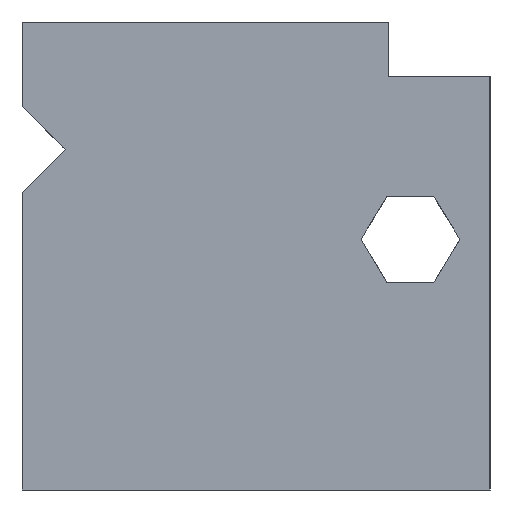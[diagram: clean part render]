
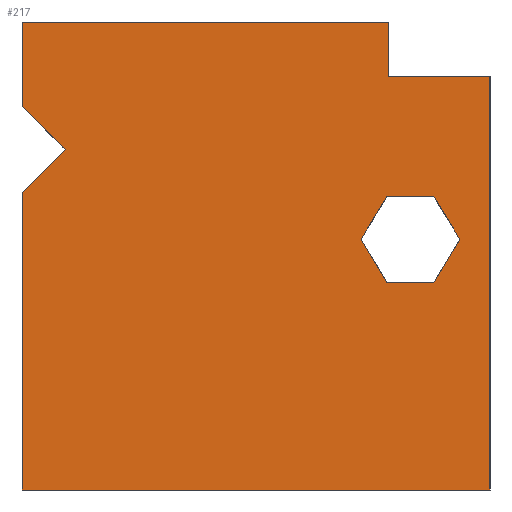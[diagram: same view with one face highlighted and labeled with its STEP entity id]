
A CAD part, left-side view. The second image highlights one B-rep face of the part: STEP entity #217.
In plain terms, the highlighted planar face has unit normal (-1, 0, 0).
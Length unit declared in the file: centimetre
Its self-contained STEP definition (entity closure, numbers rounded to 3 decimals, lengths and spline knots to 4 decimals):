
#19 = VECTOR ( 'NONE', #187, 100. ) ;
#23 = CARTESIAN_POINT ( 'NONE',  ( 0., 119.7603, 443.4514 ) ) ;
#38 = EDGE_CURVE ( 'NONE', #543, #739, #1031, .T. ) ;
#46 = CARTESIAN_POINT ( 'NONE',  ( 0., 0., 0. ) ) ;
#53 = EDGE_CURVE ( 'NONE', #1238, #868, #1769, .T. ) ;
#81 = LINE ( 'NONE', #233, #1786 ) ;
#102 = CARTESIAN_POINT ( 'NONE',  ( 0., 64.4872, 536.2836 ) ) ;
#111 = VECTOR ( 'NONE', #570, 100. ) ;
#117 = ORIENTED_EDGE ( 'NONE', *, *, #432, .F. ) ;
#124 = ORIENTED_EDGE ( 'NONE', *, *, #1902, .T. ) ;
#139 = VECTOR ( 'NONE', #368, 100. ) ;
#160 = AXIS2_PLACEMENT_3D ( 'NONE', #1704, #1200, #1816 ) ;
#187 = DIRECTION ( 'NONE',  ( 0., -0.512, 0.859 ) ) ;
#217 = ADVANCED_FACE ( 'NONE', ( #1851, #740 ), #605, .F. ) ;
#227 = VERTEX_POINT ( 'NONE', #1225 ) ;
#231 = DIRECTION ( 'NONE',  ( 0., -0.512, -0.859 ) ) ;
#233 = CARTESIAN_POINT ( 'NONE',  ( 0., 908.0816, 728.5845 ) ) ;
#261 = VERTEX_POINT ( 'NONE', #1081 ) ;
#282 = ORIENTED_EDGE ( 'NONE', *, *, #1162, .F. ) ;
#318 = ORIENTED_EDGE ( 'NONE', *, *, #1699, .F. ) ;
#342 = LINE ( 'NONE', #23, #19 ) ;
#368 = DIRECTION ( 'NONE',  ( 0., -1., 0. ) ) ;
#381 = CARTESIAN_POINT ( 'NONE',  ( 0., 0., 1000. ) ) ;
#402 = ORIENTED_EDGE ( 'NONE', *, *, #689, .T. ) ;
#428 = VECTOR ( 'NONE', #1648, 100. ) ;
#432 = EDGE_CURVE ( 'NONE', #1589, #1921, #81, .T. ) ;
#435 = EDGE_CURVE ( 'NONE', #261, #1589, #1324, .T. ) ;
#443 = CARTESIAN_POINT ( 'NONE',  ( 0., 1000., 1000. ) ) ;
#445 = DIRECTION ( 'NONE',  ( 0., -1., 0. ) ) ;
#472 = CARTESIAN_POINT ( 'NONE',  ( 0., 1000., 0. ) ) ;
#493 = VERTEX_POINT ( 'NONE', #1009 ) ;
#495 = LINE ( 'NONE', #1409, #826 ) ;
#497 = CARTESIAN_POINT ( 'NONE',  ( 0., 64.4872, 536.2836 ) ) ;
#518 = ORIENTED_EDGE ( 'NONE', *, *, #618, .F. ) ;
#531 = VERTEX_POINT ( 'NONE', #1437 ) ;
#543 = VERTEX_POINT ( 'NONE', #497 ) ;
#559 = VECTOR ( 'NONE', #1477, 100. ) ;
#570 = DIRECTION ( 'NONE',  ( 0., 0., -1. ) ) ;
#589 = VECTOR ( 'NONE', #231, 100. ) ;
#598 = ORIENTED_EDGE ( 'NONE', *, *, #1762, .F. ) ;
#601 = ORIENTED_EDGE ( 'NONE', *, *, #835, .F. ) ;
#605 = PLANE ( 'NONE',  #160 ) ;
#618 = EDGE_CURVE ( 'NONE', #227, #493, #1142, .T. ) ;
#665 = CARTESIAN_POINT ( 'NONE',  ( 0., 275.5208, 536.2836 ) ) ;
#688 = VERTEX_POINT ( 'NONE', #1988 ) ;
#689 = EDGE_CURVE ( 'NONE', #1492, #1921, #1954, .T. ) ;
#738 = CARTESIAN_POINT ( 'NONE',  ( 0., 216.5553, 884.2772 ) ) ;
#739 = VERTEX_POINT ( 'NONE', #1073 ) ;
#740 = FACE_OUTER_BOUND ( 'NONE', #1579, .T. ) ;
#765 = ORIENTED_EDGE ( 'NONE', *, *, #435, .F. ) ;
#826 = VECTOR ( 'NONE', #1740, 100. ) ;
#832 = EDGE_LOOP ( 'NONE', ( #601, #1895, #1096, #1191, #518, #318 ) ) ;
#835 = EDGE_CURVE ( 'NONE', #1657, #1825, #1581, .T. ) ;
#836 = DIRECTION ( 'NONE',  ( 0., 0.707, 0.707 ) ) ;
#844 = VECTOR ( 'NONE', #1636, 100. ) ;
#868 = VERTEX_POINT ( 'NONE', #46 ) ;
#930 = EDGE_CURVE ( 'NONE', #493, #543, #342, .T. ) ;
#938 = CARTESIAN_POINT ( 'NONE',  ( 0., 220.2477, 626.212 ) ) ;
#939 = LINE ( 'NONE', #472, #1020 ) ;
#1003 = DIRECTION ( 'NONE',  ( 0., 0., -1. ) ) ;
#1009 = CARTESIAN_POINT ( 'NONE',  ( 0., 119.7603, 443.4514 ) ) ;
#1020 = VECTOR ( 'NONE', #1278, 100. ) ;
#1031 = LINE ( 'NONE', #102, #844 ) ;
#1051 = VECTOR ( 'NONE', #1065, 100. ) ;
#1065 = DIRECTION ( 'NONE',  ( 0., 0., -1. ) ) ;
#1068 = DIRECTION ( 'NONE',  ( 0., 0., -1. ) ) ;
#1073 = CARTESIAN_POINT ( 'NONE',  ( 0., 119.7603, 626.212 ) ) ;
#1081 = CARTESIAN_POINT ( 'NONE',  ( 0., 1000., 636.6661 ) ) ;
#1096 = ORIENTED_EDGE ( 'NONE', *, *, #38, .F. ) ;
#1107 = DIRECTION ( 'NONE',  ( 0., 0.524, -0.852 ) ) ;
#1131 = CARTESIAN_POINT ( 'NONE',  ( 0., 1000., 820.503 ) ) ;
#1142 = LINE ( 'NONE', #1584, #139 ) ;
#1160 = CARTESIAN_POINT ( 'NONE',  ( 0., 0., 884.2772 ) ) ;
#1162 = EDGE_CURVE ( 'NONE', #1492, #531, #1984, .T. ) ;
#1191 = ORIENTED_EDGE ( 'NONE', *, *, #930, .F. ) ;
#1200 = DIRECTION ( 'NONE',  ( 1., 0., 0. ) ) ;
#1211 = LINE ( 'NONE', #738, #1051 ) ;
#1224 = CARTESIAN_POINT ( 'NONE',  ( 0., 1000., 1000. ) ) ;
#1225 = CARTESIAN_POINT ( 'NONE',  ( 0., 220.2477, 443.4514 ) ) ;
#1238 = VERTEX_POINT ( 'NONE', #1274 ) ;
#1274 = CARTESIAN_POINT ( 'NONE',  ( 0., 0., 884.2772 ) ) ;
#1278 = DIRECTION ( 'NONE',  ( 0., -1., 0. ) ) ;
#1314 = ORIENTED_EDGE ( 'NONE', *, *, #1629, .F. ) ;
#1324 = LINE ( 'NONE', #1936, #559 ) ;
#1353 = CARTESIAN_POINT ( 'NONE',  ( 0., 1000., 1000. ) ) ;
#1409 = CARTESIAN_POINT ( 'NONE',  ( 0., 119.7603, 626.212 ) ) ;
#1419 = ORIENTED_EDGE ( 'NONE', *, *, #53, .F. ) ;
#1437 = CARTESIAN_POINT ( 'NONE',  ( 0., 216.5553, 1000. ) ) ;
#1477 = DIRECTION ( 'NONE',  ( 0., -0.707, 0.707 ) ) ;
#1484 = CARTESIAN_POINT ( 'NONE',  ( 0., 908.0816, 728.5845 ) ) ;
#1492 = VERTEX_POINT ( 'NONE', #443 ) ;
#1520 = CARTESIAN_POINT ( 'NONE',  ( 0., 275.5208, 536.2836 ) ) ;
#1539 = EDGE_CURVE ( 'NONE', #261, #1741, #1713, .T. ) ;
#1579 = EDGE_LOOP ( 'NONE', ( #1419, #1314, #598, #282, #402, #117, #765, #1932, #124 ) ) ;
#1581 = LINE ( 'NONE', #938, #1669 ) ;
#1584 = CARTESIAN_POINT ( 'NONE',  ( 0., 220.2477, 443.4514 ) ) ;
#1589 = VERTEX_POINT ( 'NONE', #1484 ) ;
#1629 = EDGE_CURVE ( 'NONE', #688, #1238, #1642, .T. ) ;
#1636 = DIRECTION ( 'NONE',  ( 0., 0.524, 0.852 ) ) ;
#1642 = LINE ( 'NONE', #1160, #428 ) ;
#1648 = DIRECTION ( 'NONE',  ( 0., -1., 0. ) ) ;
#1657 = VERTEX_POINT ( 'NONE', #1734 ) ;
#1669 = VECTOR ( 'NONE', #1107, 100. ) ;
#1698 = CARTESIAN_POINT ( 'NONE',  ( 0., 1000., 0. ) ) ;
#1699 = EDGE_CURVE ( 'NONE', #1825, #227, #1783, .T. ) ;
#1704 = CARTESIAN_POINT ( 'NONE',  ( 0., 1000., 1000. ) ) ;
#1713 = LINE ( 'NONE', #1224, #1793 ) ;
#1734 = CARTESIAN_POINT ( 'NONE',  ( 0., 220.2477, 626.212 ) ) ;
#1740 = DIRECTION ( 'NONE',  ( 0., 1., 0. ) ) ;
#1741 = VERTEX_POINT ( 'NONE', #1698 ) ;
#1751 = VECTOR ( 'NONE', #1003, 100. ) ;
#1762 = EDGE_CURVE ( 'NONE', #531, #688, #1211, .T. ) ;
#1769 = LINE ( 'NONE', #381, #1751 ) ;
#1772 = VECTOR ( 'NONE', #445, 100. ) ;
#1783 = LINE ( 'NONE', #665, #589 ) ;
#1786 = VECTOR ( 'NONE', #836, 100. ) ;
#1793 = VECTOR ( 'NONE', #1068, 100. ) ;
#1816 = DIRECTION ( 'NONE',  ( 0., 0., -1. ) ) ;
#1825 = VERTEX_POINT ( 'NONE', #1520 ) ;
#1833 = CARTESIAN_POINT ( 'NONE',  ( 0., 1000., 1000. ) ) ;
#1851 = FACE_BOUND ( 'NONE', #832, .T. ) ;
#1895 = ORIENTED_EDGE ( 'NONE', *, *, #1922, .F. ) ;
#1902 = EDGE_CURVE ( 'NONE', #1741, #868, #939, .T. ) ;
#1921 = VERTEX_POINT ( 'NONE', #1131 ) ;
#1922 = EDGE_CURVE ( 'NONE', #739, #1657, #495, .T. ) ;
#1932 = ORIENTED_EDGE ( 'NONE', *, *, #1539, .T. ) ;
#1936 = CARTESIAN_POINT ( 'NONE',  ( 0., 1000., 636.6661 ) ) ;
#1954 = LINE ( 'NONE', #1353, #111 ) ;
#1984 = LINE ( 'NONE', #1833, #1772 ) ;
#1988 = CARTESIAN_POINT ( 'NONE',  ( 0., 216.5553, 884.2772 ) ) ;
